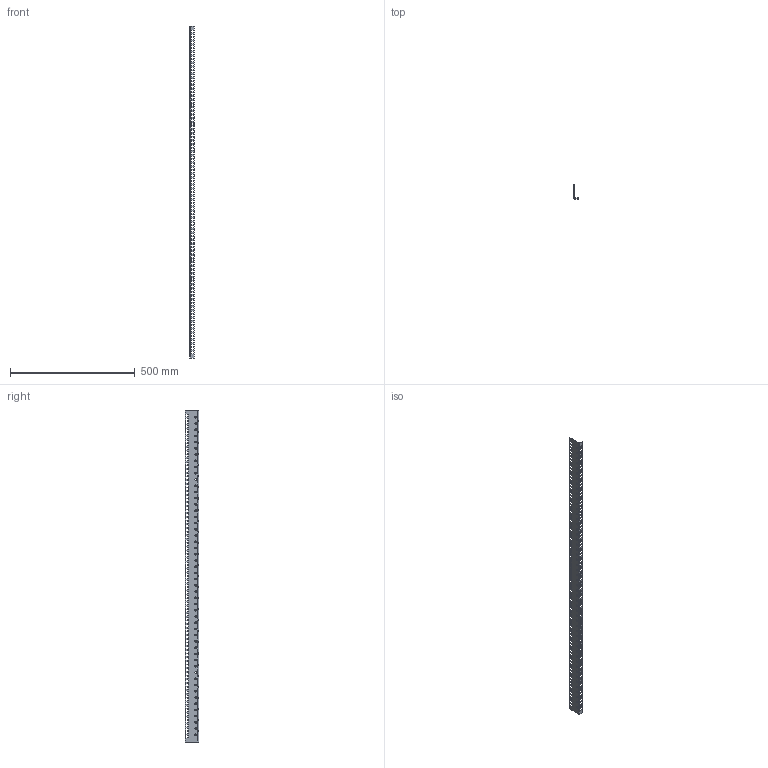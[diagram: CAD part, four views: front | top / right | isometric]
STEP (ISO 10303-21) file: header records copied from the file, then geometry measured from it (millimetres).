
FILE_DESCRIPTION (( 'STEP AP203' ), '1' );
FILE_NAME ('MG 140 IT Ðåéêà âåðòèêàëüíàÿ 19''''.STEP', '2023-11-17T10:37:06', ( '' ), ( '' ), 'SwSTEP 2.0', 'SolidWorks 2022', '' );
FILE_SCHEMA (( 'CONFIG_CONTROL_DESIGN' ));
Length unit declared in the file: millimetre
Products named in the file (1): MG 140 IT Рейка вертикальная 19''''
Bounding box: 18.5 x 54.5 x 1333 mm (x, y, z)
Volume: 150537.4 mm3; surface area: 171962 mm2
Topology: 1 solids, 1 shells, 1700 faces, 5028 edges, 3272 vertices
Faces by surface type: cylinder 926, plane 716, bspline 58
Entity records: 61437 total; most frequent: CARTESIAN_POINT 14003, ORIENTED_EDGE 10056, DIRECTION 9818, EDGE_CURVE 5028, AXIS2_PLACEMENT_3D 3379, VERTEX_POINT 3272, VECTOR 3060, LINE 3060
